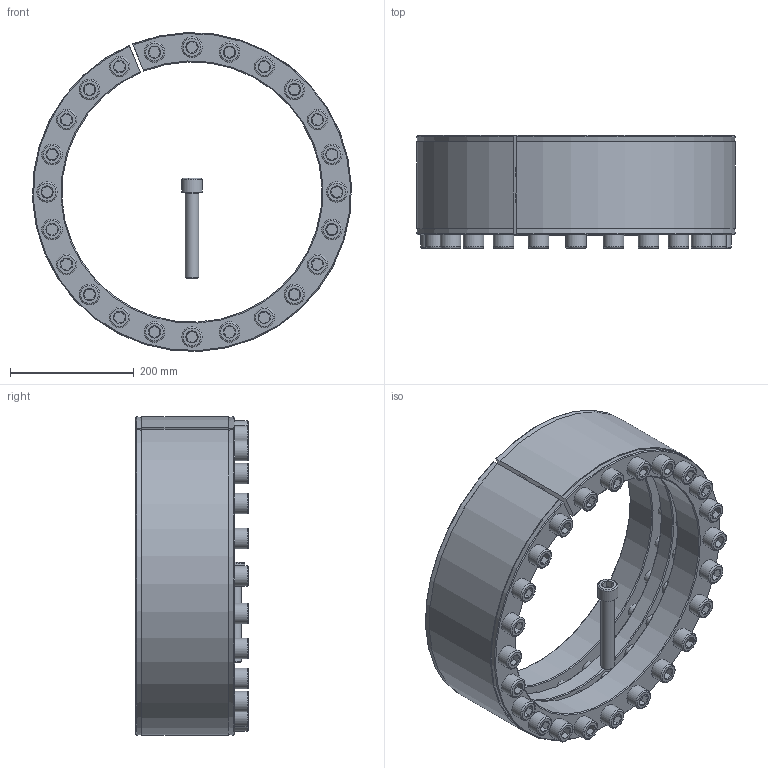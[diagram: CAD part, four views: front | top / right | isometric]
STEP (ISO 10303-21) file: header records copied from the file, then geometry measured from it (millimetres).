
FILE_DESCRIPTION( ( 'Unknown' ), '1' );
FILE_NAME( 'C:/Users/Frank/Eigene Daten/CAD/Solid Edge/KBK Karpstein/KBS Layout Baureihen/KBS 18/KBS 18 - 420 x 515.stp', 'Unknown', ( 'Unknown' ), ( 'Unknown' ), 'XStep 1.0', 'Unknown', ' ' );
FILE_SCHEMA( ( 'automotive_design' ) );
Length unit declared in the file: millimetre
Products named in the file (3): Assem1; ISO EN DIN 4762 M22x140; KBS 18 - 420 x 515
Bounding box: 514.47 x 182 x 514.6 mm (x, y, z)
Volume: 18052303.7 mm3; surface area: 2327420.2 mm2
Topology: 27 solids, 27 shells, 821 faces, 1703 edges, 1036 vertices
Faces by surface type: plane 320, cylinder 252, cone 199, torus 50
Full cylindrical faces by diameter (mm): 18 x25, 19.294 x48, 22 x50, 24 x96, 33 x25
Entity records: 4878 total; most frequent: CARTESIAN_POINT 757, DIRECTION 704, ORIENTED_EDGE 502, EDGE_LOOP 350, AXIS2_PLACEMENT_3D 334, EDGE_CURVE 251, VERTEX_POINT 215, FACE_OUTER_BOUND 201
